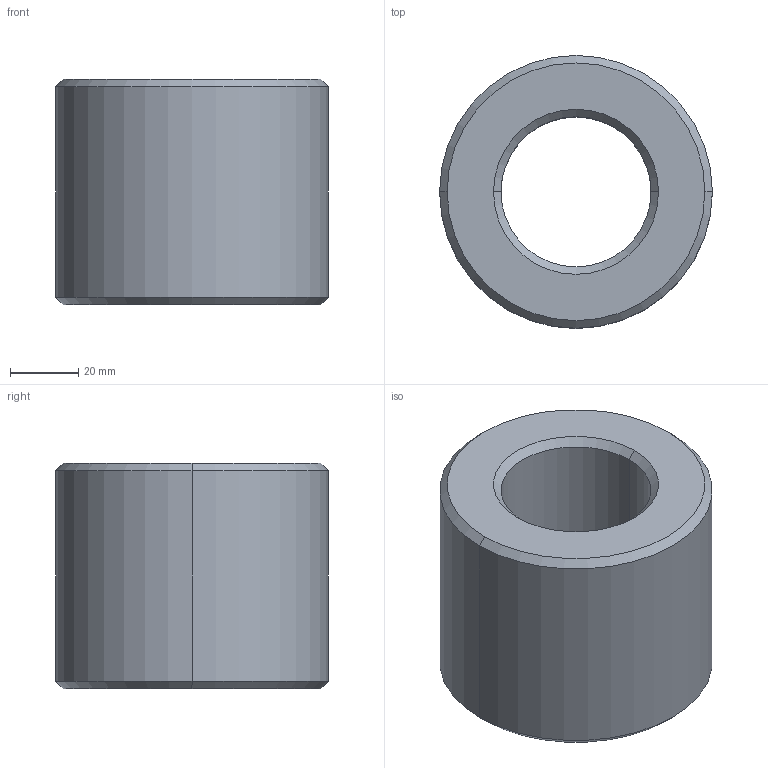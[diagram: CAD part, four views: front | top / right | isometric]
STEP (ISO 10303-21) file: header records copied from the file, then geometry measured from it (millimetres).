
FILE_DESCRIPTION (( 'STEP AP203' ), '1' );
FILE_NAME ('L1339.R44-07.step', '2024-10-24T14:12:32', ( '' ), ( '' ), 'SwSTEP 2.0', 'SolidWorks 2019', '' );
FILE_SCHEMA (( 'CONFIG_CONTROL_DESIGN' ));
Length unit declared in the file: millimetre
Products named in the file (1): L1339.R44-07
Bounding box: 80 x 80 x 66 mm (x, y, z)
Volume: 229511.7 mm3; surface area: 31718.8 mm2
Topology: 1 solids, 1 shells, 14 faces, 28 edges, 16 vertices
Faces by surface type: cone 8, cylinder 4, plane 2
Entity records: 445 total; most frequent: DIRECTION 74, CARTESIAN_POINT 59, ORIENTED_EDGE 56, AXIS2_PLACEMENT_3D 31, EDGE_CURVE 28, VERTEX_POINT 16, EDGE_LOOP 16, CIRCLE 16
